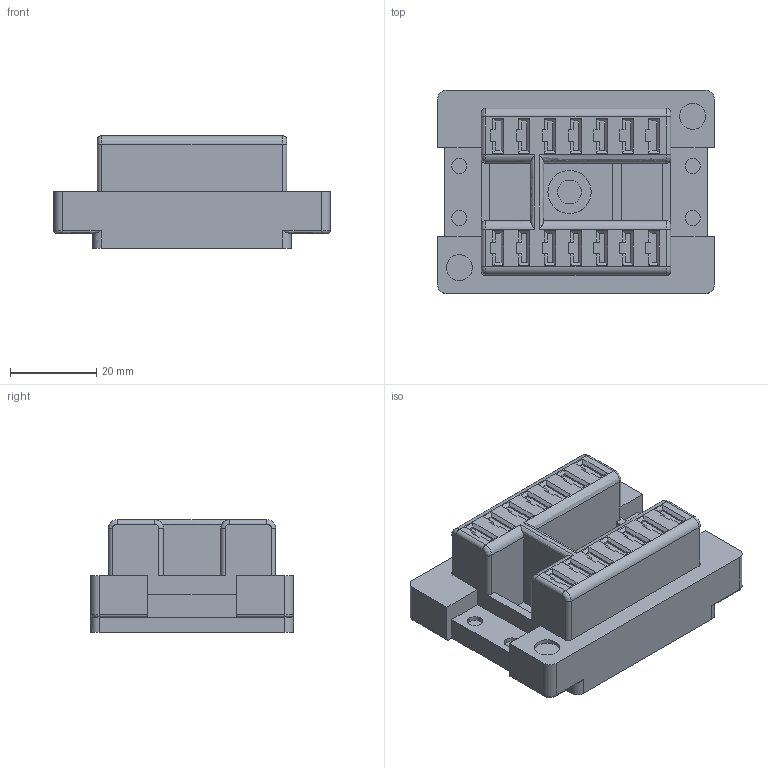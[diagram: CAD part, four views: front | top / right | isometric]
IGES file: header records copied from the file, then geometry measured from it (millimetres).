
Start section:  PTC IGES file: c-171445-1-e-3d.igs
Global section: file name: c-171445-1-e-3d.igs; native system: Creo Parametric by Parametric Technology Corporation; preprocessor: 2014090; author: workeradm; organization: Unknown; units: millimetre
Bounding box: 64 x 47 x 26.02 mm (x, y, z)
Surface area: 14101.6 mm2 (no closed solid volume)
Topology: 0 solids, 0 shells, 498 faces, 2504 edges, 2504 vertices
Faces by surface type: bspline 420, revolution 78
